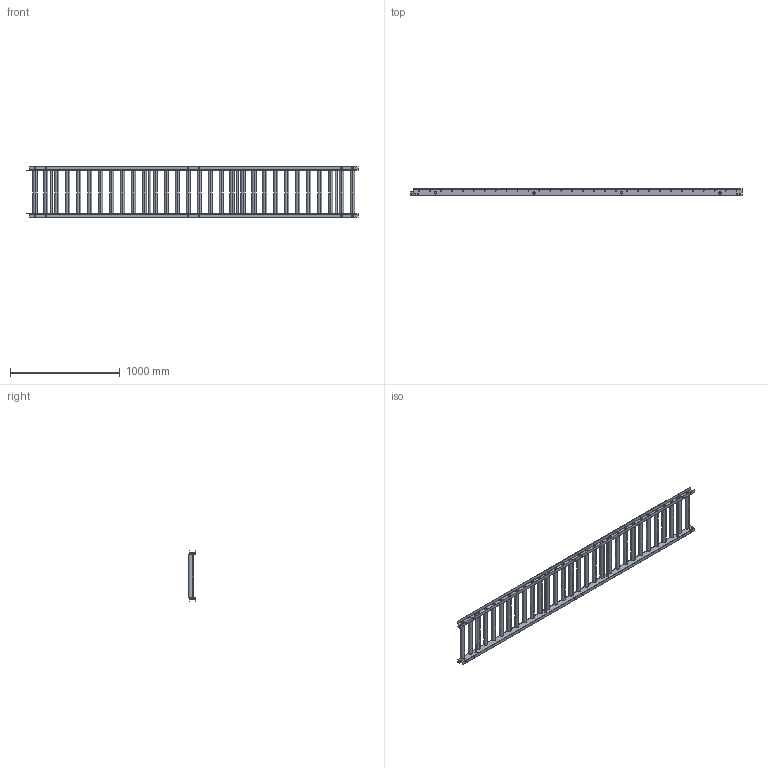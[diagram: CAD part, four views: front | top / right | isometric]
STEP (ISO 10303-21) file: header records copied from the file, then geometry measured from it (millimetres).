
FILE_DESCRIPTION (( 'STEP AP203' ), '1' );
FILE_NAME ('S-3823NB.step', '2024-02-26T06:41:30', ( '' ), ( '' ), 'SwSTEP 2.0', 'SolidWorks 2023', '' );
FILE_SCHEMA (( 'CONFIG_CONTROL_DESIGN' ));
Length unit declared in the file: millimetre
Products named in the file (1): S-3823NB
Bounding box: 3031.5 x 66.05 x 460 mm (x, y, z)
Volume: 14310675.7 mm3; surface area: 4348113.1 mm2
Topology: 84 solids, 84 shells, 1730 faces, 4282 edges, 2788 vertices
Faces by surface type: plane 952, cylinder 610, torus 120, cone 48
Entity records: 52781 total; most frequent: DIRECTION 9604, CARTESIAN_POINT 9473, ORIENTED_EDGE 8564, EDGE_CURVE 4282, AXIS2_PLACEMENT_3D 3719, VERTEX_POINT 2788, VECTOR 2166, LINE 2166
